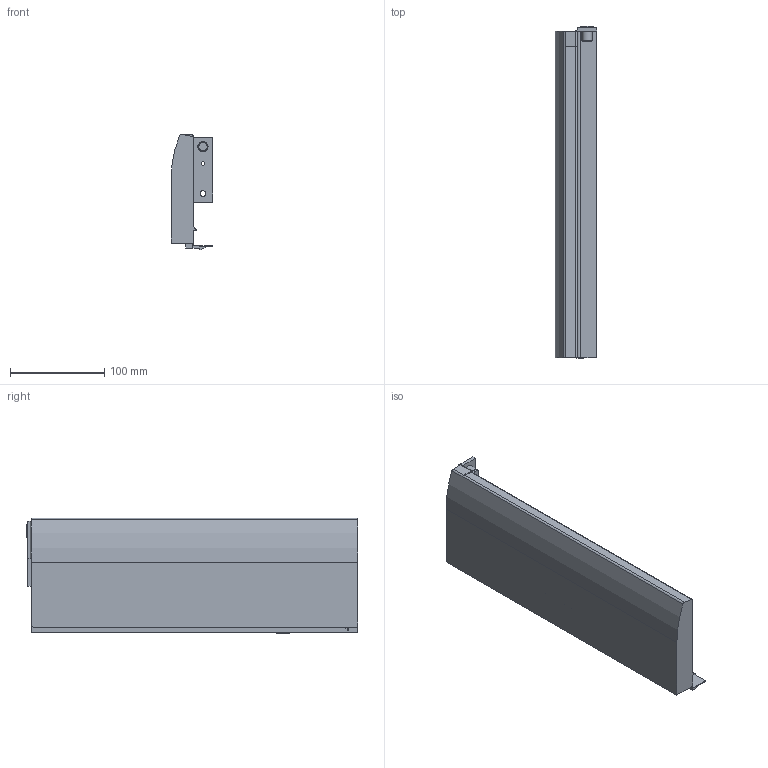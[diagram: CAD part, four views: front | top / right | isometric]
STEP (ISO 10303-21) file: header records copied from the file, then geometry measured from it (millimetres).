
FILE_DESCRIPTION (( 'STEP AP214' ), '1' );
FILE_NAME ('_IMOS_NOVA-Pro_Dekor-H122_DL_NL350_LI.step', '2010-07-14T11:02:13', ( 'grass' ), ( '' ), 'SwSTEP 2.0', 'SolidWorks 2010', '' );
FILE_SCHEMA (( 'AUTOMOTIVE_DESIGN' ));
Length unit declared in the file: millimetre
Products named in the file (1): _IMOS_NOVA-Pro_Dekor-H122_DL_NL350_LI
Bounding box: 44.3 x 352.7 x 122.49 mm (x, y, z)
Volume: 650953.3 mm3; surface area: 145967.9 mm2
Topology: 1 solids, 1 shells, 84 faces, 227 edges, 150 vertices
Faces by surface type: plane 52, cylinder 27, cone 4, bspline 1
Entity records: 2685 total; most frequent: CARTESIAN_POINT 475, DIRECTION 454, ORIENTED_EDGE 454, EDGE_CURVE 227, VECTOR 164, LINE 164, VERTEX_POINT 150, AXIS2_PLACEMENT_3D 145
